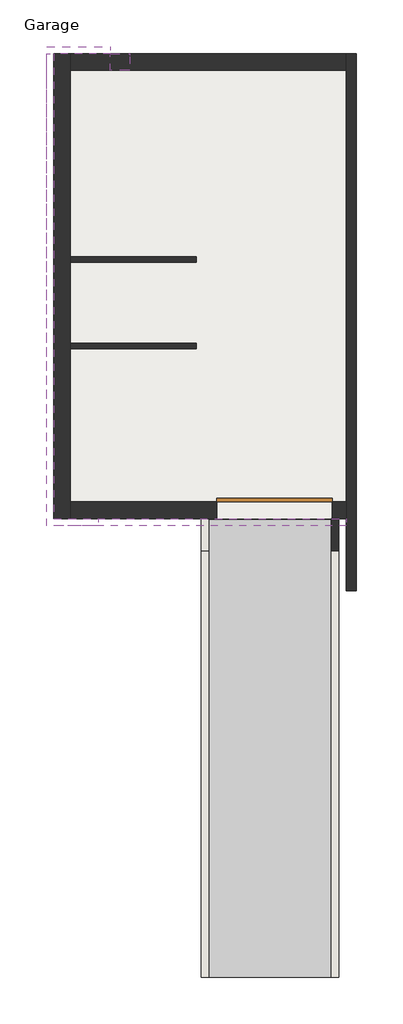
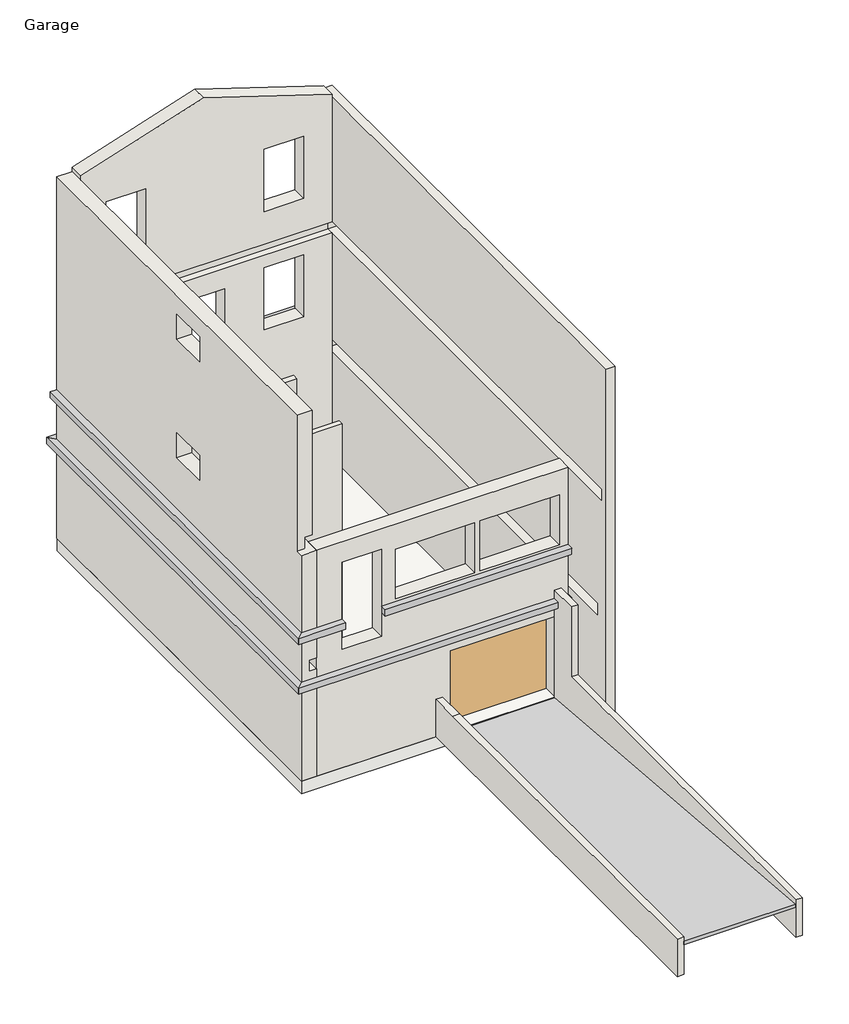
# One storey, incomplete: 8 walls, 2 proxies, 1 door, 1 ramp, 1 slab, 1 window.
"""IFC4 building model written with IfcOpenShell, lengths in millimetres."""

from ifc_helpers import new_model, si_unit, frame, origin, place, context, project, spatial, polyline, outline, extrude, faceted_brep, transform, mapped, element, save
from components import door_105d0993, ramp_1_a1c3d9f5, window_da97879f

model = new_model("IFC4")

# Units and contexts
model_context = context("Model", 3, world=origin())
ifc_project = project(units=[si_unit("LENGTHUNIT", "METRE", prefix="MILLI")], contexts=[model_context])

# Site, building, storey
site = spatial("IfcSite", under=ifc_project)
building = spatial("IfcBuilding", under=site)
storey = spatial("IfcBuildingStorey", under=building, Name="Garage", Elevation=-2743.2)

# Proxies
placement = place(None, origin())
element("IfcBuildingElementProxy", 1, Name="Cornice", ObjectType="Cornice", at=placement, inside=storey, context=model_context, shape_type="SweptSolid", body=[
    extrude(outline(polyline([(-6381.4266822, -5255.1796527), (-6381.4266822, -5102.7796527), (-2063.4266822, -5102.7796527), (-2063.4266822, -5255.1796527), (-6381.4266822, -5255.1796527)])), frame((0.0, 0.0, 738.6451905), z_axis=(0.0, 0.0, 1.0), x_axis=(1.0, 0.0, 0.0)), (0.0, 0.0, 1.0), 152.4),
    extrude(outline(polyline([(-8386.4391822, -5255.1796527), (-8234.0391822, -5102.7796527), (-7295.8266822, -5102.7796527), (-7295.8266822, -5255.1796527), (-8386.4391822, -5255.1796527)])), frame((0.0, 0.0, 738.6451905), z_axis=(0.0, 0.0, 1.0), x_axis=(1.0, 0.0, 0.0)), (0.0, 0.0, 1.0), 152.4),
    extrude(outline(polyline([(-8386.4391822, 4698.4453473), (-8234.0391822, 4698.4453473), (-8234.0391822, -5102.7796527), (-8386.4391822, -5255.1796527), (-8386.4391822, 4698.4453473)])), frame((0.0, 0.0, 738.6451905), z_axis=(0.0, 0.0, 1.0), x_axis=(1.0, 0.0, 0.0)), (0.0, 0.0, 1.0), 152.4),
    extrude(outline(polyline([(-5467.0266822, 4850.8453473), (-5467.0266822, 4698.4453473), (-7881.6141822, 4698.4453473), (-7881.6141822, 4850.8453473), (-5467.0266822, 4850.8453473)])), frame((0.0, 0.0, 738.6451905), z_axis=(0.0, 0.0, 1.0), x_axis=(1.0, 0.0, 0.0)), (0.0, 0.0, 1.0), 152.4),
    extrude(outline(polyline([(-1860.2266822, 4850.8453473), (-1860.2266822, 4698.4453473), (-4552.6266822, 4698.4453473), (-4552.6266822, 4850.8453473), (-1860.2266822, 4850.8453473)])), frame((0.0, 0.0, 738.6451905), z_axis=(0.0, 0.0, 1.0), x_axis=(1.0, 0.0, 0.0)), (0.0, 0.0, 1.0), 152.4),
])
element("IfcBuildingElementProxy", 2, Name="Cornice", ObjectType="Cornice", at=placement, inside=storey, context=model_context, shape_type="SweptSolid", body=[
    extrude(outline(polyline([(-8386.4391822, -5255.1796527), (-8234.0391822, -5102.7796527), (-2063.4266822, -5102.7796527), (-2063.4266822, -5255.1796527), (-8386.4391822, -5255.1796527)])), frame((0.0, 0.0, -473.1229174), z_axis=(0.0, 0.0, 1.0), x_axis=(1.0, 0.0, 0.0)), (0.0, 0.0, 1.0), 152.4),
    extrude(outline(polyline([(-8386.4391822, 4850.8453473), (-8234.0391822, 4698.4453473), (-8234.0391822, -5102.7796527), (-8386.4391822, -5255.1796527), (-8386.4391822, 4850.8453473)])), frame((0.0, 0.0, -473.1229174), z_axis=(0.0, 0.0, 1.0), x_axis=(1.0, 0.0, 0.0)), (0.0, 0.0, 1.0), 152.4),
    extrude(outline(polyline([(-7041.8266822, 4850.8453473), (-7041.8266822, 4698.4453473), (-8234.0391822, 4698.4453473), (-8386.4391822, 4850.8453473), (-7041.8266822, 4850.8453473)])), frame((0.0, 0.0, -473.1229174), z_axis=(0.0, 0.0, 1.0), x_axis=(1.0, 0.0, 0.0)), (0.0, 0.0, 1.0), 152.4),
    extrude(outline(polyline([(-1860.2266822, 4850.8453473), (-1860.2266822, 4698.4453473), (-6635.4266822, 4698.4453473), (-6635.4266822, 4850.8453473), (-1860.2266822, 4850.8453473)])), frame((0.0, 0.0, -473.1229174), z_axis=(0.0, 0.0, 1.0), x_axis=(1.0, 0.0, 0.0)), (0.0, 0.0, 1.0), 152.4),
])

# Door
door_shape = door_105d0993(model_context)
element("IfcDoor", 3, ObjectType="Overhead-Rolling : 8' x 6'-6\"", at=placement, inside=storey, context=model_context, shape_type="MappedRepresentation", body=[
    mapped(door_shape, transform((-3579.3266822, -4926.5671527, -2743.2), x_axis=(1.0, 0.0, 0.0), y_axis=(0.0, 1.0, 0.0), z_axis=(0.0, 0.0, 1.0))),
])

# Ramp
ramp_1_shape = ramp_1_a1c3d9f5(model_context)
element("IfcRamp", 4, ObjectType="Ramp 1", at=placement, inside=storey, context=model_context, shape_type="MappedRepresentation", body=[
    mapped(ramp_1_shape, transform((0.0, 0.0, 0.0), x_axis=(1.0, 0.0, 0.0), y_axis=(0.0, 1.0, 0.0), z_axis=(0.0, 0.0, 1.0))),
])

# Slab
element("IfcSlab", 5, ObjectType="Generic - 12\"", at=placement, inside=storey, context=model_context, shape_type="SweptSolid", body=[
    extrude(outline(polyline([(-8231.7141822, 4696.1203473), (-1860.2266822, 4696.1203473), (-1860.2266822, -5102.7796527), (-8231.7141822, -5102.7796527), (-8231.7141822, 4696.1203473)])), frame((0.0, 0.0, -3048.0), z_axis=(0.0, 0.0, 1.0), x_axis=(1.0, 0.0, 0.0)), (0.0, 0.0, 1.0), 304.8),
])

# Walls
element("IfcWall", 6, ObjectType="Exterior - Brick on Mtl. Stud", at=placement, inside=storey, context=model_context, shape_type="Brep", body=[
    faceted_brep([(-8234.0391822, 4698.4453473, -2743.2), (-8234.0391822, -5102.7796527, -2743.2), (-8234.0391822, -5102.7796527, -473.1229174), (-8234.0391822, -5102.7796527, -320.7229174), (-8234.0391822, -5102.7796527, 738.6451905), (-8234.0391822, -5102.7796527, 891.0451905), (-8234.0391822, -5102.7796527, 2774.95), (-8234.0391822, -4926.5671527, 2774.95), (-8234.0391822, -4926.5671527, 6096.0), (-8234.0391822, 4698.4453473, 6096.0), (-8234.0391822, 4698.4453473, 891.0451905), (-8234.0391822, 4698.4453473, 738.6451905), (-8234.0391822, 4698.4453473, -320.7229174), (-8234.0391822, 4698.4453473, -473.1229174), (-8234.0391822, -99.6406402, 2136.2025508), (-8234.0391822, -99.6406402, 2745.8025508), (-8234.0391822, -1014.0406402, 2745.8025508), (-8234.0391822, -1014.0406402, 2136.2025508), (-8234.0391822, -99.6406402, 5031.8025508), (-8234.0391822, -99.6406402, 5641.4025508), (-8234.0391822, -1014.0406402, 5641.4025508), (-8234.0391822, -1014.0406402, 5031.8025508), (-7881.6141822, -5102.7796527, -2743.2), (-7881.6141822, 4698.4453473, -2743.2), (-7881.6141822, 4698.4453473, -473.1229174), (-7881.6141822, 4698.4453473, -320.7229174), (-7881.6141822, 4698.4453473, -120.65), (-7881.6141822, 422.1593598, -120.65), (-7881.6141822, 422.1593598, 152.4), (-7881.6141822, 4698.4453473, 152.4), (-7881.6141822, 4698.4453473, 6096.0), (-7881.6141822, -4926.5671527, 6096.0), (-7881.6141822, -4926.5671527, 3048.0), (-7881.6141822, -1525.6656402, 3048.0), (-7881.6141822, -1525.6656402, 2774.95), (-7881.6141822, -5102.7796527, 2774.95), (-7881.6141822, -5102.7796527, 891.0451905), (-7881.6141822, -5102.7796527, 738.6451905), (-7881.6141822, -5102.7796527, 152.4), (-7881.6141822, -1525.6656402, 152.4), (-7881.6141822, -1525.6656402, -120.65), (-7881.6141822, -5102.7796527, -120.65), (-7881.6141822, -5102.7796527, -320.7229174), (-7881.6141822, -5102.7796527, -473.1229174), (-7881.6141822, -99.6406402, 2745.8025508), (-7881.6141822, -99.6406402, 2136.2025508), (-7881.6141822, -1014.0406402, 2136.2025508), (-7881.6141822, -1014.0406402, 2745.8025508), (-7881.6141822, -99.6406402, 5641.4025508), (-7881.6141822, -99.6406402, 5031.8025508), (-7881.6141822, -1014.0406402, 5031.8025508), (-7881.6141822, -1014.0406402, 5641.4025508), (-7881.6141822, 4511.1203473, 2774.95), (-7881.6141822, 422.1593598, 2774.95), (-7881.6141822, 422.1593598, 3048.0), (-7881.6141822, 4511.1203473, 3048.0), (-8053.6141822, 4698.4453473, 152.4), (-8053.6141822, 4698.4453473, -120.65), (-8053.6141822, -4926.5671527, 2774.95), (-8053.6141822, -4926.5671527, 3048.0), (-8053.6141822, -1525.6656402, 2774.95), (-8053.6141822, 4511.1203473, 2774.95), (-8053.6141822, 422.1593598, 2774.95), (-8053.6141822, -5102.7796527, -120.65), (-8053.6141822, -5102.7796527, 152.4), (-8053.6141822, 3300.7328473, -120.65), (-8053.6141822, 422.1593598, -120.65), (-8053.6141822, 4512.2328473, -120.65), (-8193.6141822, 4512.2328473, -120.65), (-8193.6141822, 3300.7328473, -120.65), (-8053.6141822, -1525.6656402, -120.65), (-8193.6141822, 4512.2328473, 152.4), (-8053.6141822, 4512.2328473, 152.4), (-8053.6141822, 422.1593598, 152.4), (-8053.6141822, 3300.7328473, 152.4), (-8193.6141822, 3300.7328473, 152.4), (-8053.6141822, -1525.6656402, 152.4), (-8053.6141822, 422.1593598, 3048.0), (-8053.6141822, 4511.1203473, 3048.0), (-8053.6141822, -1525.6656402, 3048.0)], [[[0, 1, 2, 3, 4, 5, 6, 7, 8, 9, 10, 11, 12, 13], [14, 15, 16, 17], [18, 19, 20, 21]], [[22, 23, 24, 25, 26, 27, 28, 29, 30, 31, 32, 33, 34, 35, 36, 37, 38, 39, 40, 41, 42, 43], [44, 45, 46, 47], [48, 49, 50, 51], [52, 53, 54, 55]], [[1, 0, 23, 22]], [[9, 8, 31, 30]], [[23, 0, 13, 12, 11, 10, 9, 30, 29, 56, 57, 26, 25, 24]], [[31, 8, 7, 58, 59, 32]], [[7, 6, 35, 34, 60, 58]], [[61, 62, 53, 52]], [[1, 22, 43, 42, 41, 63, 64, 38, 37, 36, 35, 6, 5, 4, 3, 2]], [[45, 44, 15, 14]], [[46, 45, 14, 17]], [[47, 46, 17, 16]], [[44, 47, 16, 15]], [[49, 48, 19, 18]], [[50, 49, 18, 21]], [[51, 50, 21, 20]], [[48, 51, 20, 19]], [[65, 66, 27, 26, 57, 67, 68, 69]], [[40, 70, 63, 41]], [[71, 72, 56, 29, 28, 73, 74, 75]], [[64, 76, 39, 38]], [[70, 76, 64, 63]], [[76, 70, 40, 39]], [[66, 73, 28, 27]], [[66, 65, 74, 73]], [[65, 69, 75, 74]], [[69, 68, 71, 75]], [[68, 67, 72, 71]], [[72, 67, 57, 56]], [[77, 78, 55, 54]], [[59, 79, 33, 32]], [[62, 61, 78, 77]], [[78, 61, 52, 55]], [[60, 79, 59, 58]], [[79, 60, 34, 33]], [[62, 77, 54, 53]]]),
])
element("IfcWall", 7, ObjectType="Exterior - Brick on Mtl. Stud", at=placement, inside=storey, context=model_context, shape_type="Brep", body=[
    faceted_brep([(-2063.4266822, -5102.7796527, 2774.95), (-7881.6141822, -5102.7796527, 2774.95), (-7881.6141822, -5102.7796527, 891.0451905), (-7881.6141822, -5102.7796527, 738.6451905), (-7881.6141822, -5102.7796527, -320.7229174), (-7881.6141822, -5102.7796527, -473.1229174), (-7881.6141822, -5102.7796527, -2743.2), (-5122.5266822, -5102.7796527, -2743.2), (-4970.1266822, -5102.7796527, -2743.2), (-4798.5266822, -5102.7796527, -2743.2), (-4798.5266822, -5102.7796527, -762.0), (-2360.1266822, -5102.7796527, -762.0), (-2360.1266822, -5102.7796527, -2743.2), (-2226.9266822, -5102.7796527, -2743.2), (-2063.4266822, -5102.7796527, -2743.2), (-2063.4266822, -5102.7796527, -473.1229174), (-2063.4266822, -5102.7796527, -320.7229174), (-2063.4266822, -5102.7796527, 738.6451905), (-2063.4266822, -5102.7796527, 891.0451905), (-6381.4266822, -5102.7796527, 152.4), (-7295.8266822, -5102.7796527, 152.4), (-7295.8266822, -5102.7796527, 738.6451905), (-7295.8266822, -5102.7796527, 891.0451905), (-7295.8266822, -5102.7796527, 2286.0), (-6381.4266822, -5102.7796527, 2286.0), (-6381.4266822, -5102.7796527, 891.0451905), (-6381.4266822, -5102.7796527, 738.6451905), (-4095.4266822, -5102.7796527, 952.4), (-4095.4266822, -5102.7796527, 2171.6), (-2266.6266822, -5102.7796527, 2171.6), (-2266.6266822, -5102.7796527, 952.4), (-6056.3860572, -5102.7796527, 952.4), (-6056.3860572, -5102.7796527, 2171.6), (-4227.5860572, -5102.7796527, 2171.6), (-4227.5860572, -5102.7796527, 952.4), (-2063.4266822, -4750.3546527, 2774.95), (-2063.4266822, -4750.3546527, -2743.2), (-2360.1266822, -4750.3546527, -2743.2), (-2360.1266822, -4750.3546527, -762.0), (-4798.5266822, -4750.3546527, -762.0), (-4798.5266822, -4750.3546527, -2743.2), (-7881.6141822, -4750.3546527, -2743.2), (-7881.6141822, -4750.3546527, 2774.95), (-7295.8266822, -4750.3546527, 152.4), (-6381.4266822, -4750.3546527, 152.4), (-6381.4266822, -4750.3546527, 2286.0), (-7295.8266822, -4750.3546527, 2286.0), (-4095.4266822, -4750.3546527, 2171.6), (-4095.4266822, -4750.3546527, 952.4), (-2266.6266822, -4750.3546527, 952.4), (-2266.6266822, -4750.3546527, 2171.6), (-6056.3860572, -4750.3546527, 2171.6), (-6056.3860572, -4750.3546527, 952.4), (-4227.5860572, -4750.3546527, 952.4), (-4227.5860572, -4750.3546527, 2171.6)], [[[0, 1, 2, 3, 4, 5, 6, 7, 8, 9, 10, 11, 12, 13, 14, 15, 16, 17, 18], [19, 20, 21, 22, 23, 24, 25, 26], [27, 28, 29, 30], [31, 32, 33, 34]], [[35, 36, 37, 38, 39, 40, 41, 42], [43, 44, 45, 46], [47, 48, 49, 50], [51, 52, 53, 54]], [[36, 14, 13, 12, 37]], [[6, 41, 40, 9, 8, 7]], [[14, 36, 35, 0, 18, 17, 16, 15]], [[41, 6, 5, 4, 3, 2, 1, 42]], [[1, 0, 35, 42]], [[19, 44, 43, 20]], [[20, 43, 46, 23, 22, 21]], [[23, 46, 45, 24]], [[44, 19, 26, 25, 24, 45]], [[38, 37, 12, 11]], [[39, 38, 11, 10]], [[40, 39, 10, 9]], [[48, 47, 28, 27]], [[49, 48, 27, 30]], [[50, 49, 30, 29]], [[47, 50, 29, 28]], [[52, 51, 32, 31]], [[53, 52, 31, 34]], [[54, 53, 34, 33]], [[51, 54, 33, 32]]]),
])
element("IfcWall", 8, ObjectType="Exterior - Brick on Mtl. Stud", at=placement, inside=storey, context=model_context, shape_type="Brep", body=[
    faceted_brep([(-2063.4266822, 4698.4453473, -2743.2), (-7881.6141822, 4698.4453473, -2743.2), (-7881.6141822, 4698.4453473, -473.1229174), (-7881.6141822, 4698.4453473, -320.7229174), (-7881.6141822, 4698.4453473, 6209.0802935), (-5047.1329322, 4698.4453473, 7118.5616629), (-2063.4266822, 4698.4453473, 6161.1994485), (-2063.4266822, 4698.4453473, -320.7229174), (-2063.4266822, 4698.4453473, -473.1229174), (-5467.0266822, 4698.4453473, 152.4), (-4552.6266822, 4698.4453473, 152.4), (-4552.6266822, 4698.4453473, 2286.0), (-5467.0266822, 4698.4453473, 2286.0), (-7041.8266822, 4698.4453473, -1443.2), (-6635.4266822, 4698.4453473, -1443.2), (-6635.4266822, 4698.4453473, -473.1229174), (-6635.4266822, 4698.4453473, -320.7229174), (-6635.4266822, 4698.4453473, -224.0), (-7041.8266822, 4698.4453473, -224.0), (-7041.8266822, 4698.4453473, -320.7229174), (-7041.8266822, 4698.4453473, -473.1229174), (-2723.8266822, 4698.4453473, 952.4), (-2723.8266822, 4698.4453473, 2476.4), (-3638.2266822, 4698.4453473, 2476.4), (-3638.2266822, 4698.4453473, 952.4), (-6381.4266822, 4698.4453473, 952.4), (-6381.4266822, 4698.4453473, 2476.4), (-7295.8266822, 4698.4453473, 2476.4), (-7295.8266822, 4698.4453473, 952.4), (-2723.8266822, 4698.4453473, 3848.0), (-2723.8266822, 4698.4453473, 5372.0), (-3638.2266822, 4698.4453473, 5372.0), (-3638.2266822, 4698.4453473, 3848.0), (-6381.4266822, 4698.4453473, 3848.0), (-6381.4266822, 4698.4453473, 5372.0), (-7295.8266822, 4698.4453473, 5372.0), (-7295.8266822, 4698.4453473, 3848.0), (-7881.6141822, 4346.0203473, -2743.2), (-2063.4266822, 4346.0203473, -2743.2), (-2063.4266822, 4346.0203473, 2774.95), (-7881.6141822, 4346.0203473, 2774.95), (-4552.6266822, 4346.0203473, 152.4), (-5467.0266822, 4346.0203473, 152.4), (-5467.0266822, 4346.0203473, 2286.0), (-4552.6266822, 4346.0203473, 2286.0), (-6635.4266822, 4346.0203473, -224.0), (-6635.4266822, 4346.0203473, -1443.2), (-7041.8266822, 4346.0203473, -1443.2), (-7041.8266822, 4346.0203473, -224.0), (-2723.8266822, 4346.0203473, 2476.4), (-2723.8266822, 4346.0203473, 952.4), (-3638.2266822, 4346.0203473, 952.4), (-3638.2266822, 4346.0203473, 2476.4), (-6381.4266822, 4346.0203473, 2476.4), (-6381.4266822, 4346.0203473, 952.4), (-7295.8266822, 4346.0203473, 952.4), (-7295.8266822, 4346.0203473, 2476.4), (-5047.1329322, 4346.0203473, 7118.5616629), (-7881.6141822, 4346.0203473, 6209.0802935), (-7881.6141822, 4346.0203473, 3048.0), (-5833.7391822, 4346.0203473, 3048.0), (-5709.9141822, 4346.0203473, 3048.0), (-2063.4266822, 4346.0203473, 3048.0), (-2063.4266822, 4346.0203473, 6161.1994485), (-2723.8266822, 4346.0203473, 5372.0), (-2723.8266822, 4346.0203473, 3848.0), (-3638.2266822, 4346.0203473, 3848.0), (-3638.2266822, 4346.0203473, 5372.0), (-6381.4266822, 4346.0203473, 5372.0), (-6381.4266822, 4346.0203473, 3848.0), (-7295.8266822, 4346.0203473, 3848.0), (-7295.8266822, 4346.0203473, 5372.0), (-2063.4266822, 4511.1203473, 3048.0), (-2063.4266822, 4511.1203473, 2774.95), (-7881.6141822, 4511.1203473, 2774.95), (-7881.6141822, 4511.1203473, 3048.0)], [[[0, 1, 2, 3, 4, 5, 6, 7, 8], [9, 10, 11, 12], [13, 14, 15, 16, 17, 18, 19, 20], [21, 22, 23, 24], [25, 26, 27, 28], [29, 30, 31, 32], [33, 34, 35, 36]], [[37, 38, 39, 40], [41, 42, 43, 44], [45, 46, 47, 48], [49, 50, 51, 52], [53, 54, 55, 56]], [[57, 58, 59, 60, 61, 62, 63], [64, 65, 66, 67], [68, 69, 70, 71]], [[1, 0, 38, 37]], [[6, 63, 62, 72, 73, 39, 38, 0, 8, 7]], [[1, 37, 40, 74, 75, 59, 58, 4, 3, 2]], [[63, 6, 5, 57]], [[4, 58, 57, 5]], [[9, 42, 41, 10]], [[10, 41, 44, 11]], [[11, 44, 43, 12]], [[42, 9, 12, 43]], [[45, 17, 16, 15, 14, 46]], [[46, 14, 13, 47]], [[18, 48, 47, 13, 20, 19]], [[17, 45, 48, 18]], [[49, 22, 21, 50]], [[50, 21, 24, 51]], [[51, 24, 23, 52]], [[22, 49, 52, 23]], [[54, 53, 26, 25]], [[55, 54, 25, 28]], [[56, 55, 28, 27]], [[53, 56, 27, 26]], [[64, 30, 29, 65]], [[65, 29, 32, 66]], [[66, 32, 31, 67]], [[30, 64, 67, 31]], [[68, 34, 33, 69]], [[69, 33, 36, 70]], [[70, 36, 35, 71]], [[34, 68, 71, 35]], [[73, 74, 40, 39]], [[75, 72, 62, 61, 60, 59]], [[74, 73, 72, 75]]]),
])
element("IfcWall", 9, ObjectType="Generic - 6\"", at=placement, inside=storey, context=model_context, shape_type="SweptSolid", body=[
    extrude(outline(polyline([(-5102.7796527, -2743.2), (-14776.7671527, -2743.2), (-14776.7671527, -1828.8), (-5780.2671527, -1828.8), (-5102.7796527, -1828.8), (-5102.7796527, -2743.2)])), frame((-5122.5266822, 0.0, 0.0), z_axis=(1.0, 0.0, 0.0), x_axis=(0.0, 1.0, 0.0)), (0.0, 0.0, 1.0), 152.4),
])
element("IfcWall", 10, ObjectType="Generic - 6\"", at=placement, inside=storey, context=model_context, shape_type="Brep", body=[
    faceted_brep([(-2379.3266822, -5102.7796527, -2743.2), (-2379.3266822, -14776.7671527, -2743.2), (-2379.3266822, -14776.7671527, -1828.8), (-2379.3266822, -5780.2671527, -1828.8), (-2379.3266822, -5780.2671527, -120.65), (-2379.3266822, -5102.7796527, -120.65), (-2226.9266822, -5102.7796527, -2743.2), (-2226.9266822, -5102.7796527, -120.65), (-2226.9266822, -5780.2671527, -120.65), (-2226.9266822, -5780.2671527, -1828.8), (-2226.9266822, -14776.7671527, -1828.8), (-2226.9266822, -14776.7671527, -2743.2), (-2360.1266822, -5102.7796527, -2743.2)], [[[0, 1, 2, 3, 4, 5]], [[6, 7, 8, 9, 10, 11]], [[1, 0, 12, 6, 11]], [[2, 1, 11, 10]], [[0, 5, 7, 6, 12]], [[8, 4, 3, 9]], [[5, 4, 8, 7]], [[3, 2, 10, 9]]]),
])
element("IfcWall", 11, ObjectType="Generic - 8\"", at=placement, inside=storey, context=model_context, shape_type="Brep", body=[
    faceted_brep([(-1860.2266822, -6626.7796527, -2743.2), (-1860.2266822, 4698.4453473, -2743.2), (-1860.2266822, 4698.4453473, -473.1229174), (-1860.2266822, 4698.4453473, -320.7229174), (-1860.2266822, 4698.4453473, 738.6451905), (-1860.2266822, 4698.4453473, 891.0451905), (-1860.2266822, 4698.4453473, 6096.0), (-1860.2266822, -6626.7796527, 6096.0), (-1860.2266822, 4515.7328473, -120.65), (-1860.2266822, -6272.0671527, -120.65), (-1860.2266822, -6272.0671527, 152.4), (-1860.2266822, 4515.7328473, 152.4), (-1860.2266822, 4511.1203473, 2774.95), (-1860.2266822, -6439.4546527, 2774.95), (-1860.2266822, -6439.4546527, 3048.0), (-1860.2266822, 4511.1203473, 3048.0), (-2063.4266822, 4698.4453473, -2743.2), (-2063.4266822, -6626.7796527, -2743.2), (-2063.4266822, -6626.7796527, 6096.0), (-2063.4266822, 4698.4453473, 6096.0), (-2063.4266822, 4698.4453473, 891.0451905), (-2063.4266822, 4698.4453473, 738.6451905), (-2063.4266822, 4698.4453473, -320.7229174), (-2063.4266822, 4698.4453473, -473.1229174), (-2063.4266822, -6272.0671527, -120.65), (-2063.4266822, 4515.7328473, -120.65), (-2063.4266822, 4515.7328473, 152.4), (-2063.4266822, -6272.0671527, 152.4), (-2063.4266822, -6439.4546527, 2774.95), (-2063.4266822, 4511.1203473, 2774.95), (-2063.4266822, 4511.1203473, 3048.0), (-2063.4266822, -6439.4546527, 3048.0)], [[[0, 1, 2, 3, 4, 5, 6, 7], [8, 9, 10, 11], [12, 13, 14, 15]], [[16, 17, 18, 19, 20, 21, 22, 23], [24, 25, 26, 27], [28, 29, 30, 31]], [[1, 0, 17, 16]], [[7, 6, 19, 18]], [[1, 16, 23, 22, 21, 20, 19, 6, 5, 4, 3, 2]], [[0, 7, 18, 17]], [[24, 9, 8, 25]], [[26, 11, 10, 27]], [[25, 8, 11, 26]], [[9, 24, 27, 10]], [[28, 13, 12, 29]], [[30, 15, 14, 31]], [[29, 12, 15, 30]], [[13, 28, 31, 14]]]),
])
element("IfcWall", 12, ObjectType="Interior - 4 7/8\" Partition (1-hr)", at=placement, inside=storey, context=model_context, shape_type="SweptSolid", body=[
    extrude(outline(polyline([(-5226.8266822, -1525.6656402), (-7881.6141822, -1525.6656402), (-7881.6141822, -1401.8406402), (-5226.8266822, -1401.8406402), (-5226.8266822, -1525.6656402)])), frame((0.0, 0.0, -2743.2), z_axis=(0.0, 0.0, 1.0), x_axis=(1.0, 0.0, 0.0)), (0.0, 0.0, 1.0), 5518.15),
])
element("IfcWall", 13, ObjectType="Interior - 4 7/8\" Partition (1-hr)", at=placement, inside=storey, context=model_context, shape_type="SweptSolid", body=[
    extrude(outline(polyline([(-7881.6141822, 421.9843598), (-5226.8266822, 421.9843598), (-5226.8266822, 298.1593598), (-7881.6141822, 298.1593598), (-7881.6141822, 421.9843598)])), frame((0.0, 0.0, -2743.2), z_axis=(0.0, 0.0, 1.0), x_axis=(1.0, 0.0, 0.0)), (0.0, 0.0, 1.0), 5518.15),
])

# Window
window_shape = window_da97879f(model_context)
element("IfcWindow", 14, ObjectType="Fixed : 16\" x 48\"", at=placement, inside=storey, context=model_context, shape_type="MappedRepresentation", body=[
    mapped(window_shape, transform((-6800.5266822, 4522.2328473, -2357.6), x_axis=(1.0, 0.0, 0.0), y_axis=(0.0, 1.0, 0.0), z_axis=(0.0, 0.0, 1.0))),
])

save(model, "model.ifc")
